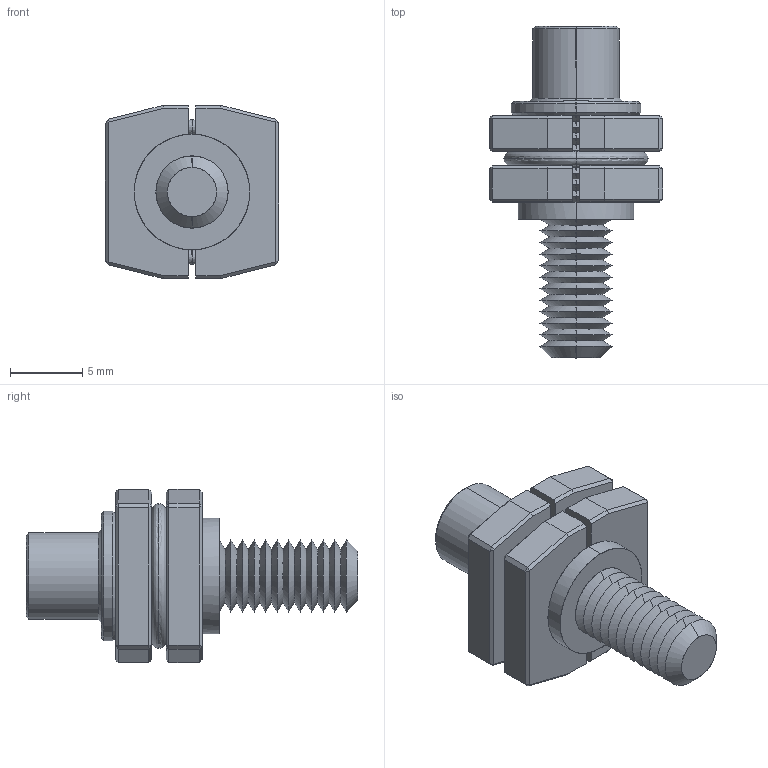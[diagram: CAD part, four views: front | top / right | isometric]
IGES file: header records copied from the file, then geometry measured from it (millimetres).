
Start section: SolidWorks IGES file using analytic representation for surfaces
Global section: file name: C:\Users\liam_\OneDrive\Documents\WORK\Work for WixRoyd\Job Files\J-00025 - Matt Davis CAD - 20191106\04. CAD Drawings\Wixroyd20191106\12454_v2\12454_v2_20191115_IGES\12454.W000B.igs; native system: SolidWorks 2017; preprocessor: SolidWorks 2017; author: liam_; date: 191115.170742; units: millimetre
Bounding box: 12 x 23 x 12 mm (x, y, z)
Surface area: 1625.6 mm2 (no closed solid volume)
Topology: 0 solids, 0 shells, 229 faces, 1394 edges, 1392 vertices
Faces by surface type: bspline 127, revolution 102
